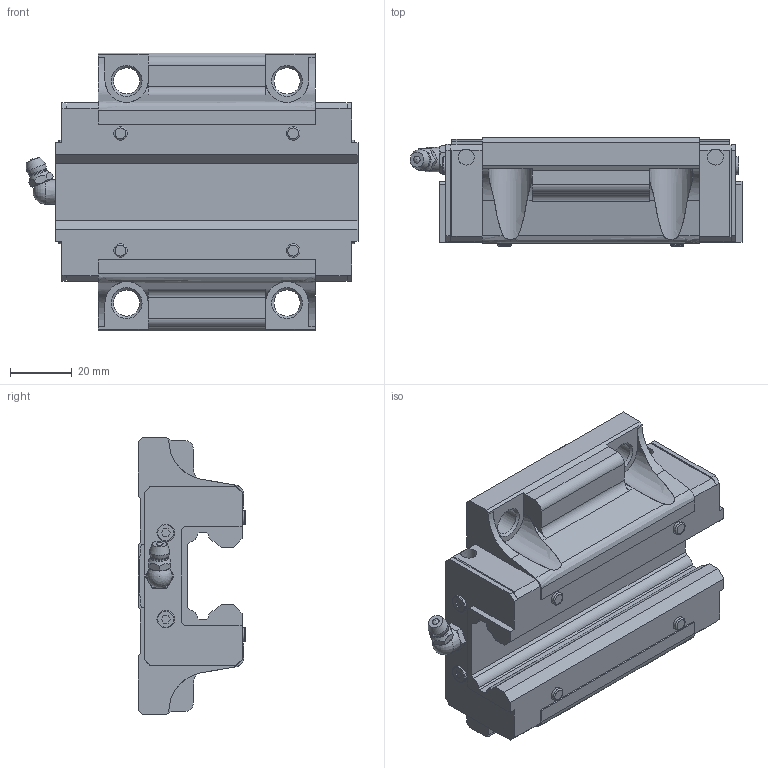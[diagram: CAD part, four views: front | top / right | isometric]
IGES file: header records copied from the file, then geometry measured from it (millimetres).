
Start section: Data from Parasolid IGES Translator 26.0.171, Copyright(c) 2006 Siemens PLM Software. All Rights Reserved.
Global section: file name: HSR30C1SS(GK) BLOCK(1B-M6F).igs; native system: By Siemens PLM Incorporated; preprocessor: XPlus GENERIC/IGES 26.0.171; author: Noname; organization: Noname; date: 20240521.045513; units: millimetre
Bounding box: 107.6 x 35 x 90 mm (x, y, z)
Surface area: 32054.5 mm2 (no closed solid volume)
Topology: 0 solids, 0 shells, 273 faces, 1454 edges, 1400 vertices
Faces by surface type: extrusion 188, revolution 85
